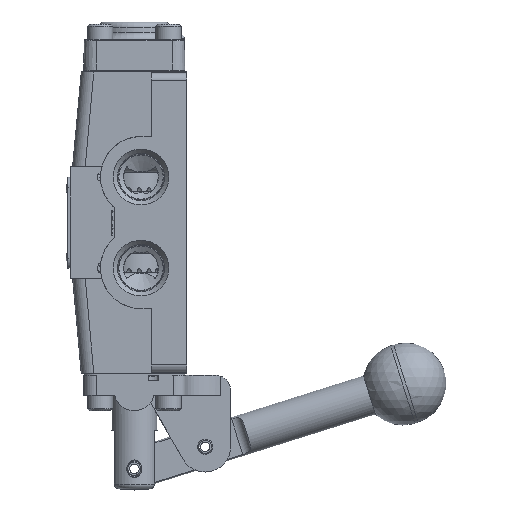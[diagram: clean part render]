
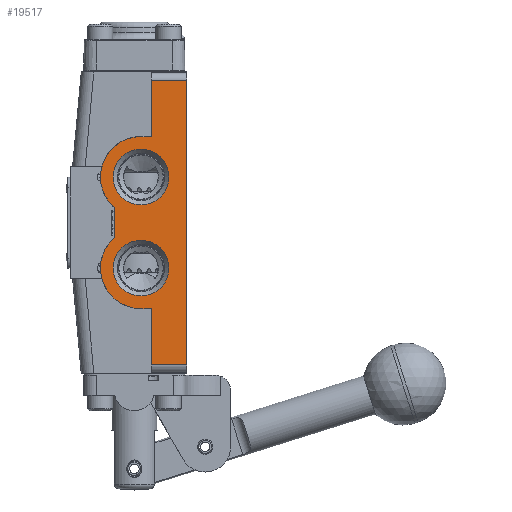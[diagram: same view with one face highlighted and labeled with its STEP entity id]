
A CAD part, left-side view. The second image highlights one B-rep face of the part: STEP entity #19517.
In plain terms, the highlighted planar face has unit normal (-1, 0, 0).
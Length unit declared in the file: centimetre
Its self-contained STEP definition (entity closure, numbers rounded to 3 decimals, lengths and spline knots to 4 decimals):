
#945=LINE('',#30265,#2171);
#1149=LINE('',#32175,#2375);
#1150=LINE('',#32177,#2376);
#1151=LINE('',#32179,#2377);
#1152=LINE('',#32181,#2378);
#1153=LINE('',#32183,#2379);
#1154=LINE('',#32184,#2380);
#1155=LINE('',#32185,#2381);
#2171=VECTOR('',#23885,0.9525);
#2375=VECTOR('',#24611,1.7628);
#2376=VECTOR('',#24612,1.1113);
#2377=VECTOR('',#24613,8.9205);
#2378=VECTOR('',#24614,1.1113);
#2379=VECTOR('',#24615,1.7628);
#2380=VECTOR('',#24616,0.3162);
#2381=VECTOR('',#24617,0.3162);
#3916=FACE_BOUND('',#5950,.T.);
#3917=FACE_BOUND('',#5951,.T.);
#4541=FACE_OUTER_BOUND('',#5949,.T.);
#5949=EDGE_LOOP('',(#14321,#14322,#14323,#14324,#14325,#14326,#14327,#14328,
#14329,#14330));
#5950=EDGE_LOOP('',(#14331));
#5951=EDGE_LOOP('',(#14332));
#7130=CIRCLE('',#20663,0.8731);
#7137=CIRCLE('',#20675,0.8731);
#7235=CIRCLE('',#20930,1.27);
#7248=CIRCLE('',#20956,1.27);
#8163=VERTEX_POINT('',#29015);
#8172=VERTEX_POINT('',#29077);
#8395=VERTEX_POINT('',#30262);
#8396=VERTEX_POINT('',#30264);
#8420=VERTEX_POINT('',#30340);
#8470=VERTEX_POINT('',#30862);
#8670=VERTEX_POINT('',#32173);
#8671=VERTEX_POINT('',#32174);
#8672=VERTEX_POINT('',#32176);
#8673=VERTEX_POINT('',#32178);
#8674=VERTEX_POINT('',#32180);
#8675=VERTEX_POINT('',#32182);
#10082=EDGE_CURVE('',#8163,#8163,#7130,.T.);
#10091=EDGE_CURVE('',#8172,#8172,#7137,.T.);
#10376=EDGE_CURVE('',#8395,#8396,#945,.T.);
#10414=EDGE_CURVE('',#8420,#8395,#7235,.T.);
#10488=EDGE_CURVE('',#8396,#8470,#7248,.T.);
#10799=EDGE_CURVE('',#8670,#8671,#1149,.T.);
#10800=EDGE_CURVE('',#8672,#8670,#1150,.T.);
#10801=EDGE_CURVE('',#8672,#8673,#1151,.T.);
#10802=EDGE_CURVE('',#8673,#8674,#1152,.T.);
#10803=EDGE_CURVE('',#8675,#8674,#1153,.T.);
#10804=EDGE_CURVE('',#8470,#8675,#1154,.T.);
#10805=EDGE_CURVE('',#8671,#8420,#1155,.T.);
#14321=ORIENTED_EDGE('',*,*,#10799,.F.);
#14322=ORIENTED_EDGE('',*,*,#10800,.F.);
#14323=ORIENTED_EDGE('',*,*,#10801,.T.);
#14324=ORIENTED_EDGE('',*,*,#10802,.T.);
#14325=ORIENTED_EDGE('',*,*,#10803,.F.);
#14326=ORIENTED_EDGE('',*,*,#10804,.F.);
#14327=ORIENTED_EDGE('',*,*,#10488,.F.);
#14328=ORIENTED_EDGE('',*,*,#10376,.F.);
#14329=ORIENTED_EDGE('',*,*,#10414,.F.);
#14330=ORIENTED_EDGE('',*,*,#10805,.F.);
#14331=ORIENTED_EDGE('',*,*,#10082,.T.);
#14332=ORIENTED_EDGE('',*,*,#10091,.T.);
#18128=PLANE('',#21152);
#19517=ADVANCED_FACE('',(#4541,#3916,#3917),#18128,.T.);
#20663=AXIS2_PLACEMENT_3D('',#29016,#23287,#23288);
#20675=AXIS2_PLACEMENT_3D('',#29078,#23311,#23312);
#20930=AXIS2_PLACEMENT_3D('',#30342,#23976,#23977);
#20956=AXIS2_PLACEMENT_3D('',#30863,#24060,#24061);
#21152=AXIS2_PLACEMENT_3D('',#32172,#24609,#24610);
#23287=DIRECTION('center_axis',(1.,0.,0.));
#23288=DIRECTION('ref_axis',(0.,-1.,0.));
#23311=DIRECTION('center_axis',(1.,0.,0.));
#23312=DIRECTION('ref_axis',(0.,-1.,0.));
#23885=DIRECTION('',(0.,0.,1.));
#23976=DIRECTION('center_axis',(1.,0.,0.));
#23977=DIRECTION('ref_axis',(0.,0.,1.));
#24060=DIRECTION('center_axis',(1.,0.,0.));
#24061=DIRECTION('ref_axis',(0.,-0.663,0.749));
#24609=DIRECTION('center_axis',(-1.,0.,0.));
#24610=DIRECTION('ref_axis',(0.,0.,1.));
#24611=DIRECTION('',(0.,0.,1.));
#24612=DIRECTION('',(0.,1.,0.));
#24613=DIRECTION('',(0.,0.,1.));
#24614=DIRECTION('',(0.,1.,0.));
#24615=DIRECTION('',(0.,0.,1.));
#24616=DIRECTION('',(0.,-1.,0.));
#24617=DIRECTION('',(0.,1.,0.));
#29015=CARTESIAN_POINT('',(-2.8575,-1.0814,-1.4275));
#29016=CARTESIAN_POINT('Origin',(-2.8575,-0.2083,-1.4275));
#29077=CARTESIAN_POINT('',(-2.8575,-1.0814,1.4275));
#29078=CARTESIAN_POINT('Origin',(-2.8575,-0.2083,1.4275));
#30262=CARTESIAN_POINT('',(-2.8575,0.6332,-0.4763));
#30264=CARTESIAN_POINT('',(-2.8575,0.6332,0.4763));
#30265=CARTESIAN_POINT('',(-2.8575,0.6332,0.2381));
#30340=CARTESIAN_POINT('',(-2.8575,-0.2083,-2.6975));
#30342=CARTESIAN_POINT('Origin',(-2.8575,-0.2083,-1.4275));
#30862=CARTESIAN_POINT('',(-2.8575,-0.2083,2.6975));
#30863=CARTESIAN_POINT('Origin',(-2.8575,-0.2083,1.4275));
#32172=CARTESIAN_POINT('Origin',(-2.8575,-1.6358,-4.4602));
#32173=CARTESIAN_POINT('',(-2.8575,-0.5245,-4.4602));
#32174=CARTESIAN_POINT('',(-2.8575,-0.5245,-2.6975));
#32175=CARTESIAN_POINT('',(-2.8575,-0.5245,-4.4602));
#32176=CARTESIAN_POINT('',(-2.8575,-1.6358,-4.4602));
#32177=CARTESIAN_POINT('',(-2.8575,-1.6358,-4.4602));
#32178=CARTESIAN_POINT('',(-2.8575,-1.6358,4.4602));
#32179=CARTESIAN_POINT('',(-2.8575,-1.6358,-4.4602));
#32180=CARTESIAN_POINT('',(-2.8575,-0.5245,4.4602));
#32181=CARTESIAN_POINT('',(-2.8575,-1.6358,4.4602));
#32182=CARTESIAN_POINT('',(-2.8575,-0.5245,2.6975));
#32183=CARTESIAN_POINT('',(-2.8575,-0.5245,-4.4602));
#32184=CARTESIAN_POINT('',(-2.8575,-0.9614,2.6975));
#32185=CARTESIAN_POINT('',(-2.8575,-0.2477,-2.6975));
